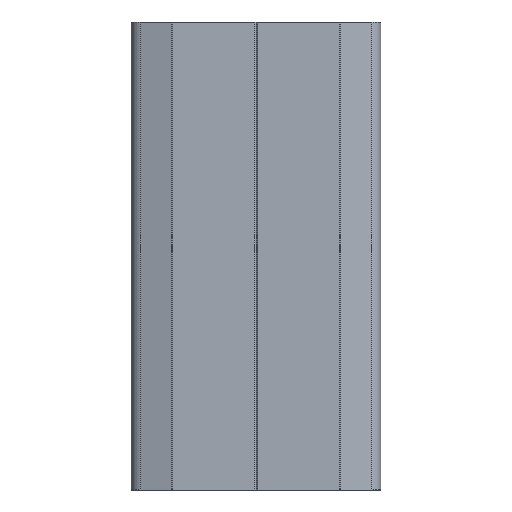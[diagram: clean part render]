
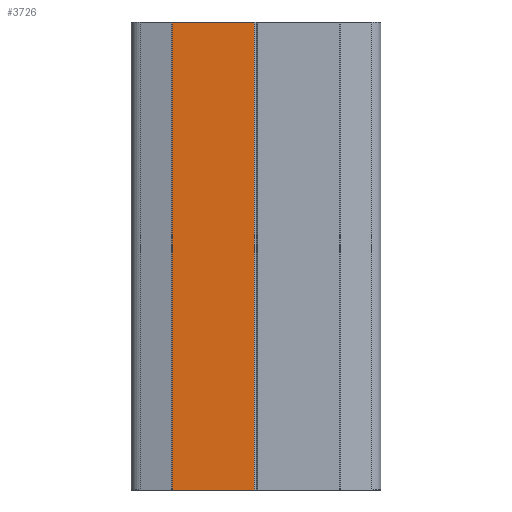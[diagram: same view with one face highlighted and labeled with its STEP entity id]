
A CAD part, front view. The second image highlights one B-rep face of the part: STEP entity #3726.
In plain terms, the highlighted planar face has unit normal (0, -1, 0).
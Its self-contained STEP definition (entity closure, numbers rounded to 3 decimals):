
#93=CARTESIAN_POINT('',(-0.5,-23.5,0.));
#94=VERTEX_POINT('',#93);
#101=CARTESIAN_POINT('',(-26.806,-23.5,0.));
#102=VERTEX_POINT('',#101);
#103=CARTESIAN_POINT('',(-26.806,-23.5,0.));
#104=DIRECTION('',(1.0,0.,0.));
#105=VECTOR('',#104,26.306);
#106=LINE('',#103,#105);
#107=EDGE_CURVE('',#102,#94,#106,.T.);
#3684=CARTESIAN_POINT('',(-26.806,-23.5,150.0));
#3685=VERTEX_POINT('',#3684);
#3686=CARTESIAN_POINT('',(-26.806,-23.5,0.));
#3687=DIRECTION('',(0.0,0.0,1.0));
#3688=VECTOR('',#3687,150.0);
#3689=LINE('',#3686,#3688);
#3690=EDGE_CURVE('',#102,#3685,#3689,.T.);
#3703=CARTESIAN_POINT('',(-0.5,-23.5,0.0));
#3704=DIRECTION('',(0.,-1.0,0.0));
#3705=DIRECTION('',(0.0,0.0,-1.0));
#3706=AXIS2_PLACEMENT_3D('',#3703,#3704,#3705);
#3707=PLANE('',#3706);
#3708=ORIENTED_EDGE('',*,*,#107,.T.);
#3709=CARTESIAN_POINT('',(-0.5,-23.5,150.0));
#3710=VERTEX_POINT('',#3709);
#3711=CARTESIAN_POINT('',(-0.5,-23.5,0.));
#3712=DIRECTION('',(0.0,0.0,1.0));
#3713=VECTOR('',#3712,150.0);
#3714=LINE('',#3711,#3713);
#3715=EDGE_CURVE('',#94,#3710,#3714,.T.);
#3716=ORIENTED_EDGE('',*,*,#3715,.T.);
#3717=CARTESIAN_POINT('',(-0.5,-23.5,150.0));
#3718=DIRECTION('',(-1.0,0.,0.0));
#3719=VECTOR('',#3718,26.306);
#3720=LINE('',#3717,#3719);
#3721=EDGE_CURVE('',#3710,#3685,#3720,.T.);
#3722=ORIENTED_EDGE('',*,*,#3721,.T.);
#3723=ORIENTED_EDGE('',*,*,#3690,.F.);
#3724=EDGE_LOOP('',(#3708,#3716,#3722,#3723));
#3725=FACE_OUTER_BOUND('',#3724,.T.);
#3726=ADVANCED_FACE('',(#3725),#3707,.T.);
